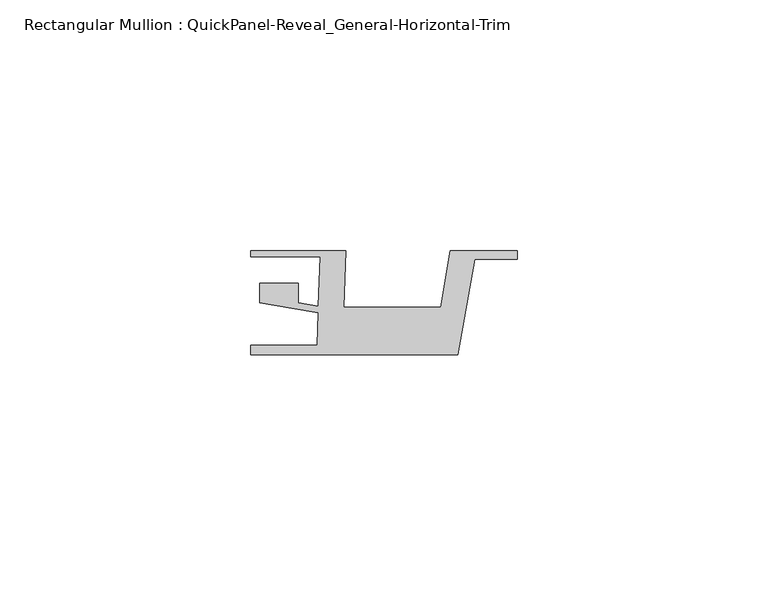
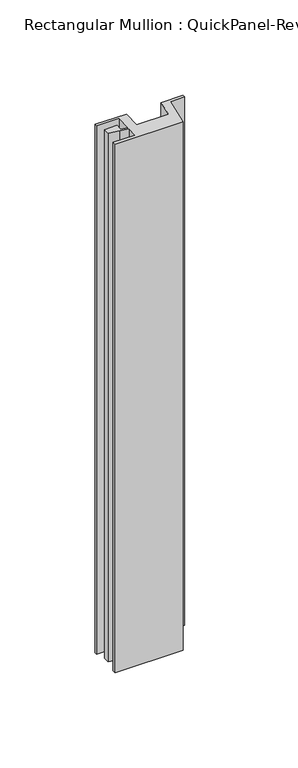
"""IFC4 building model written with IfcOpenShell, lengths in millimetres: member geometry, Rectangular Mullion : QuickPanel-Reveal_General-Horizontal-Trim."""

from ifc_helpers import new_model, si_unit, frame, origin, place, context, project, spatial, polyline, outline, extrude, source, transform, mapped, element, save


def rectangular_mullion_quickpanel_reveal_general_horizontal_b46f4490(model_context):
    return source(origin(), model_context, "Body", "SweptSolid", [
        extrude(outline(polyline([(-53.1926881, -8.6293878), (-53.1926881, -6.6935423), (-39.9517754, -6.6935423), (-39.7249902, -0.1992641), (-44.9752711, 0.7008023), (-51.4106037, 1.8040245), (-51.4106037, 5.6493034), (-43.6658306, 5.6493034), (-43.6658306, 1.7648465), (-39.6802617, 1.0815922), (-39.3363347, 10.9303752), (-53.1926881, 10.9303752), (-53.1926881, 12.1803727), (-34.2095873, 12.1803727), (-34.6033563, 0.9043028), (-15.3127056, 0.9043028), (-13.3796258, 12.1803727), (0.0, 12.1803727), (0.0, 10.4985348), (-8.5254306, 10.4985348), (-11.8981995, -8.6293878), (-53.1926881, -8.6293878)])), frame((0.0, 0.0, -338.388579), z_axis=(0.0, 0.0, 1.0), x_axis=(1.0, 0.0, 0.0)), (0.0, 0.0, 1.0), 338.388579),
    ])


if __name__ == "__main__":
    model = new_model("IFC4")
    model_context = context("Model", 3, world=origin())
    ifc_project = project(units=[si_unit("LENGTHUNIT", "METRE", prefix="MILLI")], contexts=[model_context])
    site = spatial("IfcSite", under=ifc_project)
    building = spatial("IfcBuilding", under=site)
    placement = place(None, origin())
    rectangular_mullion_quickpanel_reveal_general_horizontal_shape = rectangular_mullion_quickpanel_reveal_general_horizontal_b46f4490(model_context)
    element("IfcMember", 1, ObjectType="Rectangular Mullion : QuickPanel-Reveal_General-Horizontal-Trim", at=placement, inside=building, context=model_context, shape_type="MappedRepresentation", body=[
        mapped(rectangular_mullion_quickpanel_reveal_general_horizontal_shape, transform((0.0, 0.0, 0.0), x_axis=(1.0, 0.0, 0.0), y_axis=(0.0, 1.0, 0.0), z_axis=(0.0, 0.0, 1.0))),
    ])
    save(model, "model.ifc")
